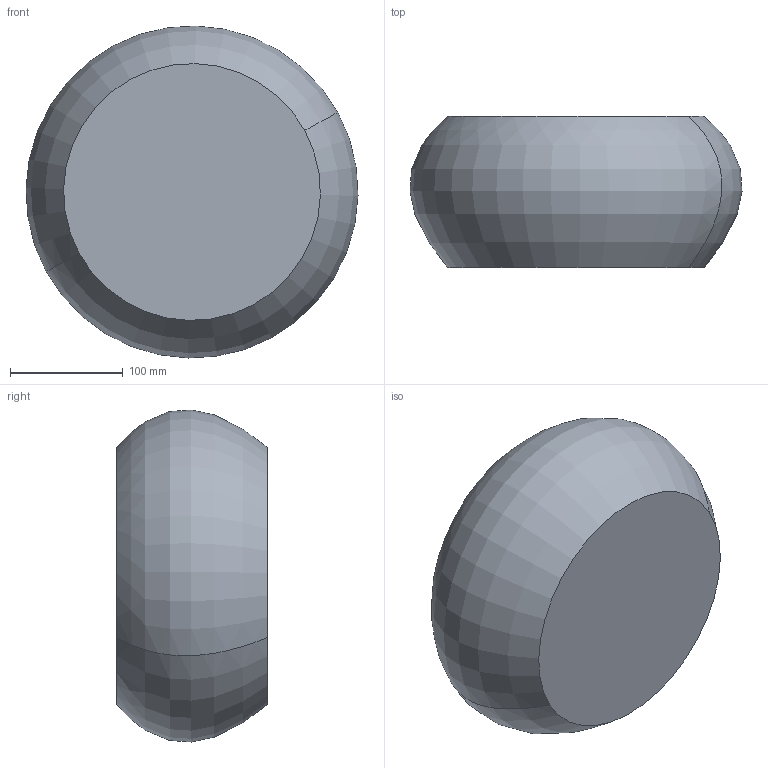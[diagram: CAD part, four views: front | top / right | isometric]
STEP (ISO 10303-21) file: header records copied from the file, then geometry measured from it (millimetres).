
FILE_DESCRIPTION(('CATIA V5 STEP Exchange'),'2;1');
FILE_NAME('C:\_Andres\UNIVERSIDAD\IQS\ASIGNATURAS\DAO\EXF\EXF-15161c\1original\Santolària_Rossell_Ej10-decora_v24.stp','2016-03-04T22:24:14+00:00',('none'),('none'),'CATIA Version 5 Release 20 SP 1 (IN-10)','CATIA V5 STEP AP203','none');
FILE_SCHEMA(('CONFIG_CONTROL_DESIGN'));
Length unit declared in the file: millimetre
Products named in the file (1): Santolària_Rossell_Ej10-decora_v24
Bounding box: 294.73 x 134 x 294.73 mm (x, y, z)
Volume: 7874532.2 mm3; surface area: 212636.2 mm2
Topology: 1 solids, 1 shells, 4 faces, 6 edges, 4 vertices
Faces by surface type: revolution 2, plane 2
Entity records: 166 total; most frequent: CARTESIAN_POINT 50, DIRECTION 12, ORIENTED_EDGE 12, AXIS2_PLACEMENT_3D 8, EDGE_CURVE 6, ADVANCED_FACE 4, B_SPLINE_CURVE_WITH_KNOTS 4, CC_DESIGN_PERSON_AND_ORGANIZATION_ASSIGNMENT 4
